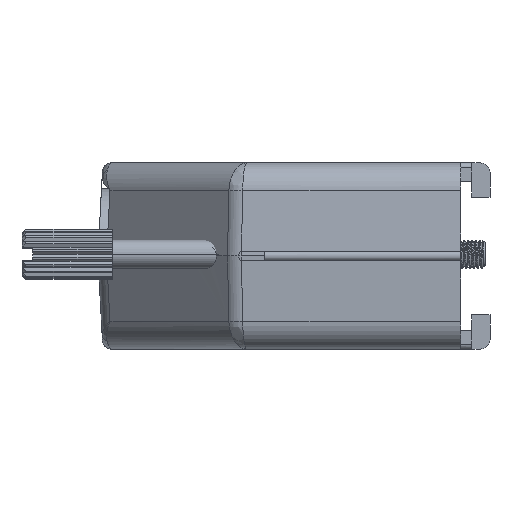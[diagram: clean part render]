
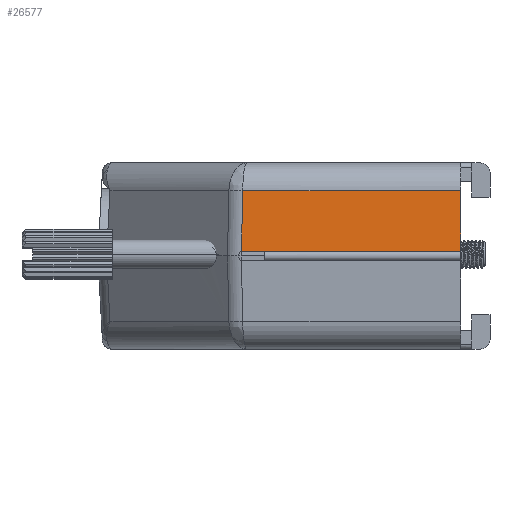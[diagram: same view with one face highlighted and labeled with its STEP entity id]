
A CAD part, left-side view. The second image highlights one B-rep face of the part: STEP entity #26577.
In plain terms, the highlighted planar face has unit normal (0.999, 0, -0.052).
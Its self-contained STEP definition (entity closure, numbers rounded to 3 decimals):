
#17 = EDGE_CURVE ( 'NONE', #51206, #52600, #37787, .T. ) ;
#508 = EDGE_CURVE ( 'NONE', #1058, #14378, #36294, .T. ) ;
#1058 = VERTEX_POINT ( 'NONE', #37005 ) ;
#4162 = CARTESIAN_POINT ( 'NONE',  ( 1.126, -2.719, 0.5 ) ) ;
#5439 = ORIENTED_EDGE ( 'NONE', *, *, #12619, .T. ) ;
#6562 = DIRECTION ( 'NONE',  ( 0., 1., 0. ) ) ;
#6604 = CARTESIAN_POINT ( 'NONE',  ( 1.449, 25.228, 6.657 ) ) ;
#7334 = VECTOR ( 'NONE', #6562, 1000. ) ;
#8991 = CARTESIAN_POINT ( 'NONE',  ( 1.126, 25.362, 0.5 ) ) ;
#10117 = EDGE_CURVE ( 'NONE', #14378, #13597, #55992, .T. ) ;
#10860 = CARTESIAN_POINT ( 'NONE',  ( 1.449, 38.834, 6.657 ) ) ;
#12619 = EDGE_CURVE ( 'NONE', #51206, #1058, #41867, .T. ) ;
#13597 = VERTEX_POINT ( 'NONE', #6604 ) ;
#13830 = ORIENTED_EDGE ( 'NONE', *, *, #46277, .T. ) ;
#13881 = CARTESIAN_POINT ( 'NONE',  ( 1.1, -2.719, 0. ) ) ;
#14378 = VERTEX_POINT ( 'NONE', #47130 ) ;
#15106 = LINE ( 'NONE', #10860, #35982 ) ;
#16706 = CARTESIAN_POINT ( 'NONE',  ( 1.126, 3., 0.5 ) ) ;
#17710 = ORIENTED_EDGE ( 'NONE', *, *, #508, .T. ) ;
#20358 = DIRECTION ( 'NONE',  ( 0., 1., 0. ) ) ;
#21753 = VECTOR ( 'NONE', #30247, 1000. ) ;
#23645 = ORIENTED_EDGE ( 'NONE', *, *, #10117, .T. ) ;
#26577 = ADVANCED_FACE ( 'NONE', ( #52663 ), #39626, .T. ) ;
#27992 = ORIENTED_EDGE ( 'NONE', *, *, #17, .F. ) ;
#28137 = DIRECTION ( 'NONE',  ( 0., -1., 0. ) ) ;
#30247 = DIRECTION ( 'NONE',  ( 0.052, -0.022, 0.998 ) ) ;
#31147 = DIRECTION ( 'NONE',  ( 0.999, 0., -0.052 ) ) ;
#35391 = AXIS2_PLACEMENT_3D ( 'NONE', #13881, #31147, #48409 ) ;
#35982 = VECTOR ( 'NONE', #28137, 1000. ) ;
#36294 = LINE ( 'NONE', #40534, #7334 ) ;
#37005 = CARTESIAN_POINT ( 'NONE',  ( 1.126, 23., 0.5 ) ) ;
#37787 = LINE ( 'NONE', #47388, #40253 ) ;
#39626 = PLANE ( 'NONE',  #35391 ) ;
#40253 = VECTOR ( 'NONE', #43123, 1000. ) ;
#40534 = CARTESIAN_POINT ( 'NONE',  ( 1.126, -2.719, 0.5 ) ) ;
#41867 = LINE ( 'NONE', #4162, #47279 ) ;
#41884 = EDGE_LOOP ( 'NONE', ( #13830, #27992, #5439, #17710, #23645 ) ) ;
#43123 = DIRECTION ( 'NONE',  ( 0.052, 0., 0.999 ) ) ;
#45171 = CARTESIAN_POINT ( 'NONE',  ( 1.449, 3., 6.657 ) ) ;
#46277 = EDGE_CURVE ( 'NONE', #13597, #52600, #15106, .T. ) ;
#47130 = CARTESIAN_POINT ( 'NONE',  ( 1.126, 25.362, 0.5 ) ) ;
#47279 = VECTOR ( 'NONE', #20358, 1000. ) ;
#47388 = CARTESIAN_POINT ( 'NONE',  ( 1.126, 3., 0.5 ) ) ;
#48409 = DIRECTION ( 'NONE',  ( -0.052, 0., -0.999 ) ) ;
#51206 = VERTEX_POINT ( 'NONE', #16706 ) ;
#52600 = VERTEX_POINT ( 'NONE', #45171 ) ;
#52663 = FACE_OUTER_BOUND ( 'NONE', #41884, .T. ) ;
#55992 = LINE ( 'NONE', #8991, #21753 ) ;
